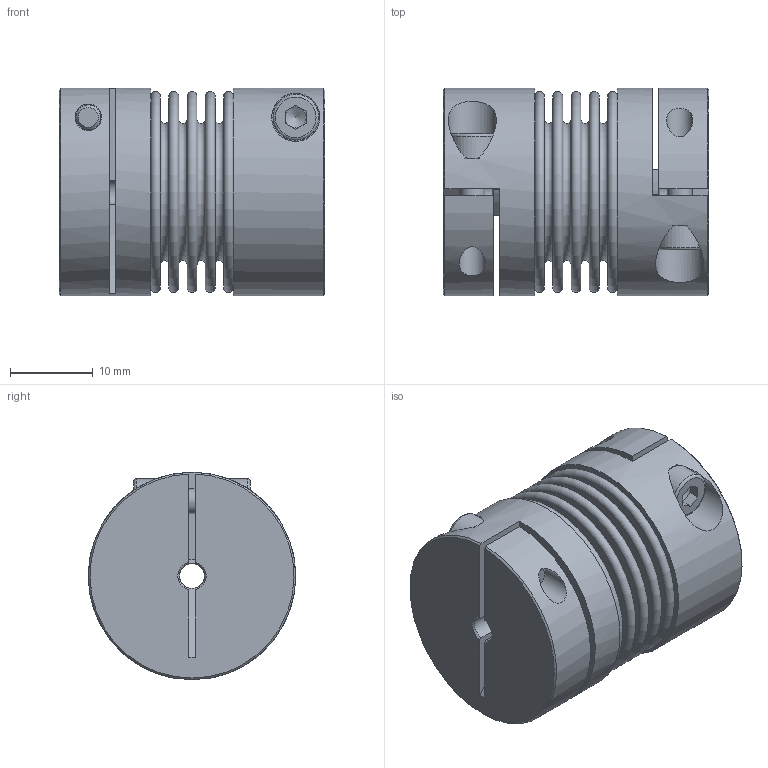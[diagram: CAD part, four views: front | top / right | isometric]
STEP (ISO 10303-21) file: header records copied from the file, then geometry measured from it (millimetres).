
FILE_DESCRIPTION(/* description */ ('STEP AP203'),/* implementation_level */ '2;1');
FILE_NAME(/* name */ 'KB2-20-32-3-3',/* time_stamp */ '2022-09-12T12:41:31+02:00',/* author */ ('License CC BY-ND 4.0'),/* organization */ ('CADENAS'),/* preprocessor_version */ 'ST-DEVELOPER v18.102',/* originating_system */ 'PARTsolutions',/* authorisation */ ' ');
FILE_SCHEMA (('CONFIG_CONTROL_DESIGN'));
Length unit declared in the file: millimetre
Products named in the file (1): KB2-20-32-3-3
Bounding box: 32 x 25 x 25 mm (x, y, z)
Volume: 10371.5 mm3; surface area: 10498 mm2
Topology: 1 solids, 1 shells, 120 faces, 270 edges, 176 vertices
Faces by surface type: plane 68, cylinder 22, torus 20, cone 10
Full cylindrical faces by diameter (mm): 3 x4, 3.2 x4, 5.5 x2, 17.5 x2, 25 x2
Entity records: 3156 total; most frequent: CARTESIAN_POINT 613, DIRECTION 544, ORIENTED_EDGE 428, AXIS2_PLACEMENT_3D 229, EDGE_CURVE 214, FACE_BOUND 196, EDGE_LOOP 194, VERTEX_POINT 162
